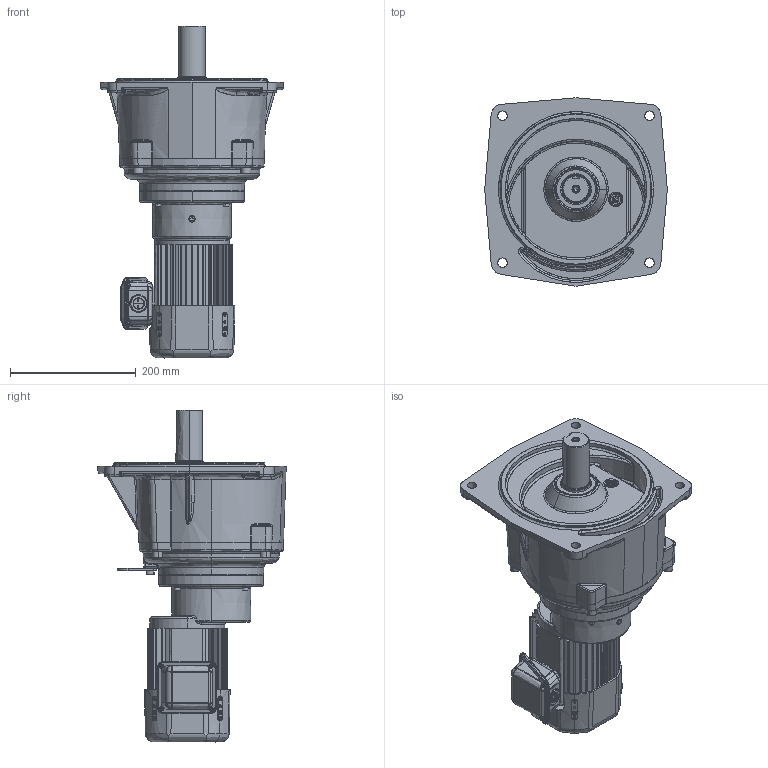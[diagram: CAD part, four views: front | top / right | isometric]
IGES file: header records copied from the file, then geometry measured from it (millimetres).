
Start section: SolidWorks IGES file using analytic representation for surfaces
Global section: file name: \\100.100.100.8\1_共有作業フォルダ\1-5_３Ｄデータ\solidworks\personal-folder\H.Nagayama\SGP1外形\P1(3D)\igs\TMF2-04-(300~450).IGS; native system: SolidWorks 2018; preprocessor: SolidWorks 2018; author: sigma-giken; date: 200722.105054; units: millimetre
Bounding box: 290 x 299 x 527 mm (x, y, z)
Surface area: 822199.4 mm2 (no closed solid volume)
Topology: 0 solids, 0 shells, 2056 faces, 26489 edges, 26412 vertices
Faces by surface type: bspline 1095, revolution 961
